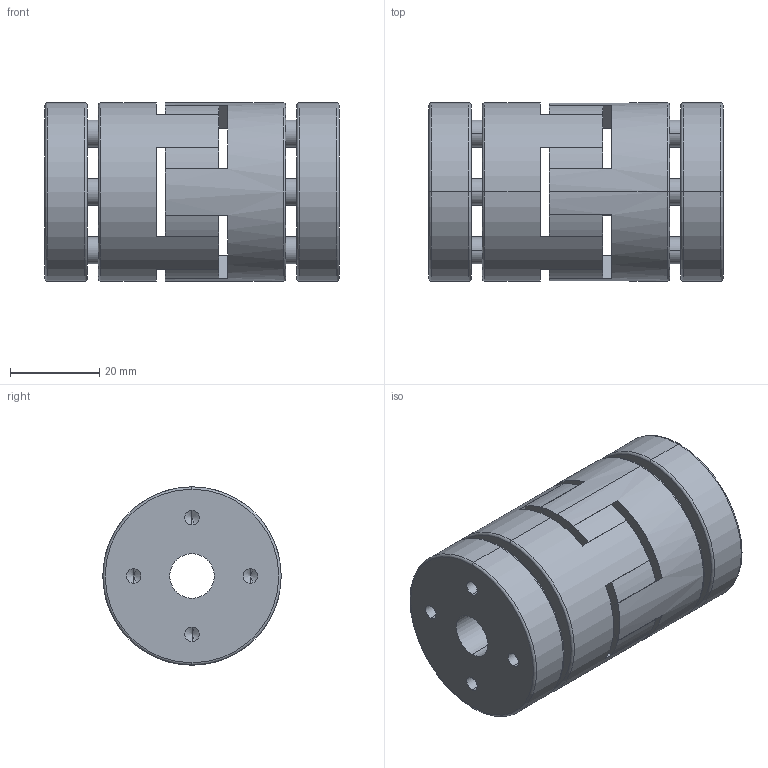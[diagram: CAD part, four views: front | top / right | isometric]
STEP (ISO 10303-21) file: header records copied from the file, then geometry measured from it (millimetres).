
FILE_DESCRIPTION (( 'STEP AP203' ), '1' );
FILE_NAME ('SQR-40P.STEP', '2009-10-01T16:42:12', ( 'USER' ), ( 'HOME' ), 'SwSTEP 2.0', 'SolidWorks 2007', '' );
FILE_SCHEMA (( 'CONFIG_CONTROL_DESIGN' ));
Length unit declared in the file: millimetre
Products named in the file (1): SQR-40P
Bounding box: 66 x 40 x 40 mm (x, y, z)
Volume: 67464.1 mm3; surface area: 24047.8 mm2
Topology: 3 solids, 3 shells, 136 faces, 350 edges, 216 vertices
Faces by surface type: cylinder 58, plane 50, cone 16, torus 12
Entity records: 4171 total; most frequent: DIRECTION 764, CARTESIAN_POINT 687, ORIENTED_EDGE 668, EDGE_CURVE 334, AXIS2_PLACEMENT_3D 293, VERTEX_POINT 216, LINE 178, VECTOR 178
